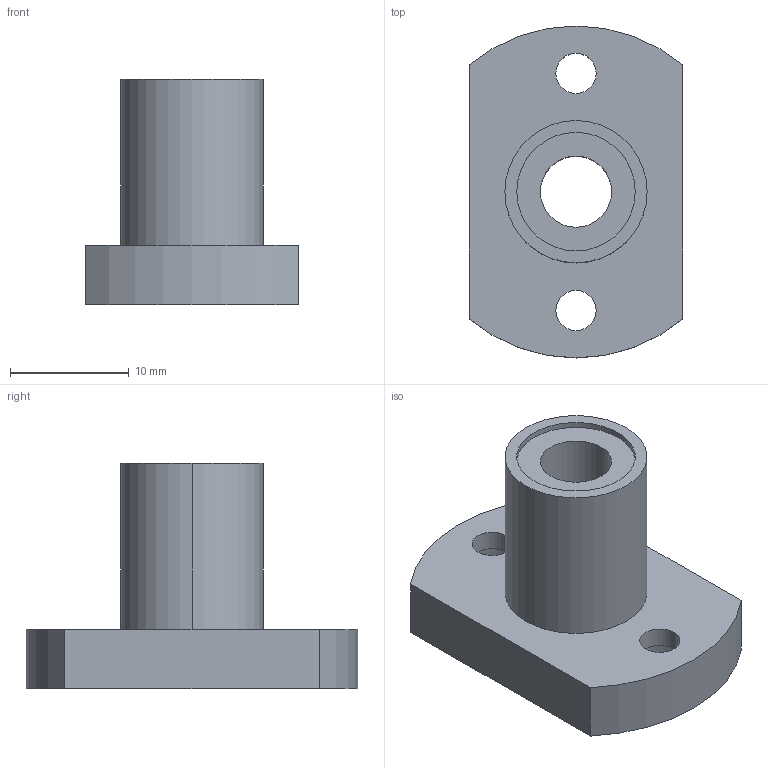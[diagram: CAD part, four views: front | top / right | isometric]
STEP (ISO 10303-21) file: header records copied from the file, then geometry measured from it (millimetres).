
FILE_DESCRIPTION((''),'2;1');
FILE_NAME('C:\Documents and Settings\ｿﾀﾀ蠑ｷ1\ｹﾙﾅﾁ ﾈｭｸ饅\ｺﾎﾇｰﾆﾄﾀﾏ\ﾁｦﾇｰ\LMH__UU\LMH6UU.stp','2005-06-15T09:56:57',('ｿﾀﾀ蠑ｷ1'),(''),'Autodesk Inventor 9','Autodesk Inventor 9','');
FILE_SCHEMA(('AUTOMOTIVE_DESIGN { 1 0 10303 214 1 1 1 1 }'));
Length unit declared in the file: millimetre
Products named in the file (1): LMH__
Bounding box: 18 x 28 x 19 mm (x, y, z)
Volume: 3037.3 mm3; surface area: 2329.6 mm2
Topology: 1 solids, 1 shells, 30 faces, 66 edges, 44 vertices
Faces by surface type: cylinder 12, bspline 10, plane 8
Entity records: 989 total; most frequent: CARTESIAN_POINT 283, DIRECTION 148, ORIENTED_EDGE 132, EDGE_CURVE 66, AXIS2_PLACEMENT_3D 61, VERTEX_POINT 44, EDGE_LOOP 42, CIRCLE 40
